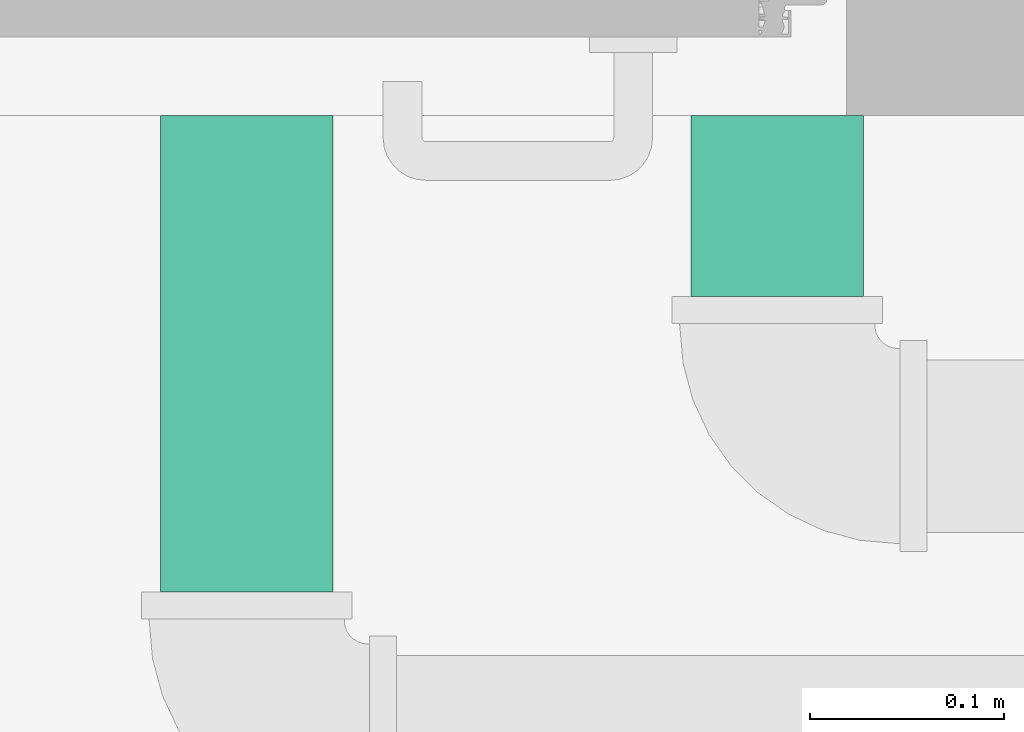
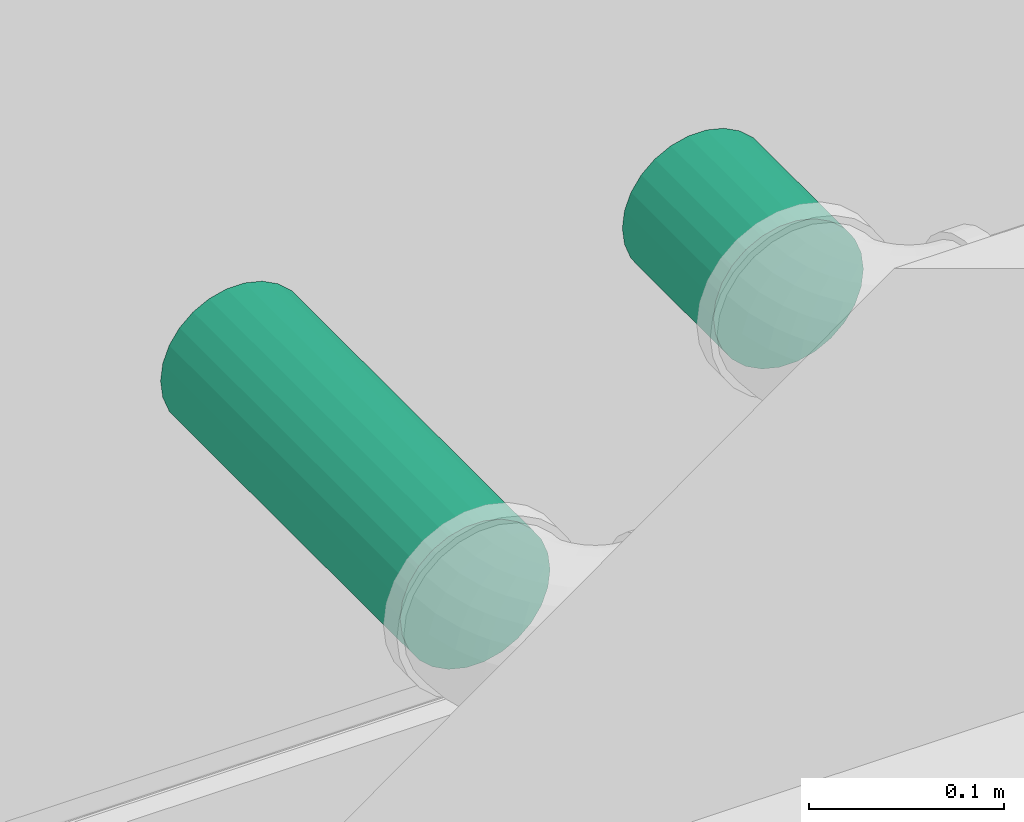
# One storey, part 62 of 108: 2 pipe segments.
"""IFC4 building model written with IfcOpenShell, lengths in feet."""

from ifc_helpers import new_model, entity, si_unit, converted_unit, derived_unit, direction, frame, origin, origin_2d_with_axis, place, context, subcontext, project, spatial, circle, extrude, type_object, element, save


model = new_model("IFC4")

# Units and contexts
model_context = context("Model", 3, precision=0.0001, world=origin(), true_north=direction((6.12303176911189e-17, 1.0)))
body_context = subcontext(model_context, "Body", "Model", "MODEL_VIEW")
ifc_project = project(units=[converted_unit("LENGTHUNIT", "FOOT", entity("IfcRatioMeasure", 0.3048), si_unit("LENGTHUNIT", "METRE"), dimensions=[1, 0, 0, 0, 0, 0, 0]), converted_unit("AREAUNIT", "SQUARE FOOT", entity("IfcRatioMeasure", 0.09290304), si_unit("AREAUNIT", "SQUARE_METRE"), dimensions=[2, 0, 0, 0, 0, 0, 0]), converted_unit("VOLUMEUNIT", "CUBIC FOOT", entity("IfcRatioMeasure", 0.028316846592), si_unit("VOLUMEUNIT", "CUBIC_METRE"), dimensions=[3, 0, 0, 0, 0, 0, 0]), converted_unit("PLANEANGLEUNIT", "DEGREE", entity("IfcRatioMeasure", 0.0174532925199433), si_unit("PLANEANGLEUNIT", "RADIAN"), dimensions=[0, 0, 0, 0, 0, 0, 0]), si_unit("MASSUNIT", "GRAM", prefix="KILO"), derived_unit("MASSDENSITYUNIT", [(si_unit("MASSUNIT", "GRAM", prefix="KILO"), 1), (si_unit("LENGTHUNIT", "METRE"), -3)]), si_unit("TIMEUNIT", "SECOND"), si_unit("FREQUENCYUNIT", "HERTZ"), si_unit("THERMODYNAMICTEMPERATUREUNIT", "DEGREE_CELSIUS"), derived_unit("THERMALTRANSMITTANCEUNIT", [(si_unit("MASSUNIT", "GRAM", prefix="KILO"), 1), (si_unit("THERMODYNAMICTEMPERATUREUNIT", "KELVIN"), -1), (si_unit("TIMEUNIT", "SECOND"), -3)]), derived_unit("VOLUMETRICFLOWRATEUNIT", [(si_unit("LENGTHUNIT", "METRE"), 3), (si_unit("TIMEUNIT", "SECOND"), -1)]), si_unit("ELECTRICCURRENTUNIT", "AMPERE"), si_unit("ELECTRICVOLTAGEUNIT", "VOLT"), si_unit("POWERUNIT", "WATT"), si_unit("FORCEUNIT", "NEWTON"), si_unit("ILLUMINANCEUNIT", "LUX"), si_unit("LUMINOUSFLUXUNIT", "LUMEN"), si_unit("LUMINOUSINTENSITYUNIT", "CANDELA"), derived_unit("USERDEFINED", [(si_unit("MASSUNIT", "GRAM", prefix="KILO"), -1), (si_unit("LENGTHUNIT", "METRE"), -2), (si_unit("TIMEUNIT", "SECOND"), 3), (si_unit("LUMINOUSFLUXUNIT", "LUMEN"), 1)]), derived_unit("LINEARVELOCITYUNIT", [(si_unit("LENGTHUNIT", "METRE"), 1), (si_unit("TIMEUNIT", "SECOND"), -1)]), si_unit("PRESSUREUNIT", "PASCAL"), derived_unit("USERDEFINED", [(si_unit("LENGTHUNIT", "METRE"), -2), (si_unit("MASSUNIT", "GRAM", prefix="KILO"), 1), (si_unit("TIMEUNIT", "SECOND"), -2)])], contexts=[model_context])

# Site, building, storey
site_placement = place(None, origin())
site = spatial("IfcSite", under=ifc_project, at=site_placement, Name="Default", CompositionType="ELEMENT")
building_placement = place(site_placement, origin())
building = spatial("IfcBuilding", under=site, at=building_placement, CompositionType="ELEMENT")
storey_placement = place(building_placement, frame((0.0, 0.0, 168.0)))
storey = spatial("IfcBuildingStorey", under=building, at=storey_placement, Name="Level 15", CompositionType="ELEMENT", Elevation=168.0)

# Pipe segments
pipe_segment_type = type_object("IfcPipeSegmentType", Name="Pipe Types:Hydronic", PredefinedType="NOTDEFINED")
pipe_segment_1_placement = place(storey_placement, frame((-36.1984474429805, 14.8946539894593, 9.18226616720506)))
element("IfcPipeSegment", 1, at=pipe_segment_1_placement, inside=storey, type_object=pipe_segment_type, Name="Pipe Types:Hydronic", ObjectType="Pipe Types:Hydronic", PredefinedType="NOTDEFINED", context=body_context, shape_type="SweptSolid", body=[
    extrude(circle(Radius=0.145833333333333, at=origin_2d_with_axis()), frame((0.151067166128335, 0.0, 0.151067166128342), z_axis=(0.0, 1.0, 0.0), x_axis=(1.0, 0.0, 0.0)), (0.0, 0.0, 1.0), 0.306953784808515),
])
pipe_segment_2_placement = place(storey_placement, frame((-37.096470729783, 14.3946539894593, 9.18226616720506)))
element("IfcPipeSegment", 2, at=pipe_segment_2_placement, inside=storey, type_object=pipe_segment_type, Name="Pipe Types:Hydronic", ObjectType="Pipe Types:Hydronic", PredefinedType="NOTDEFINED", context=body_context, shape_type="SweptSolid", body=[
    extrude(circle(Radius=0.145833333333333, at=origin_2d_with_axis()), frame((0.151067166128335, 0.0, 0.151067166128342), z_axis=(0.0, 1.0, 0.0), x_axis=(1.0, 0.0, 0.0)), (0.0, 0.0, 1.0), 0.806953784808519),
])

save(model, "model.ifc")
